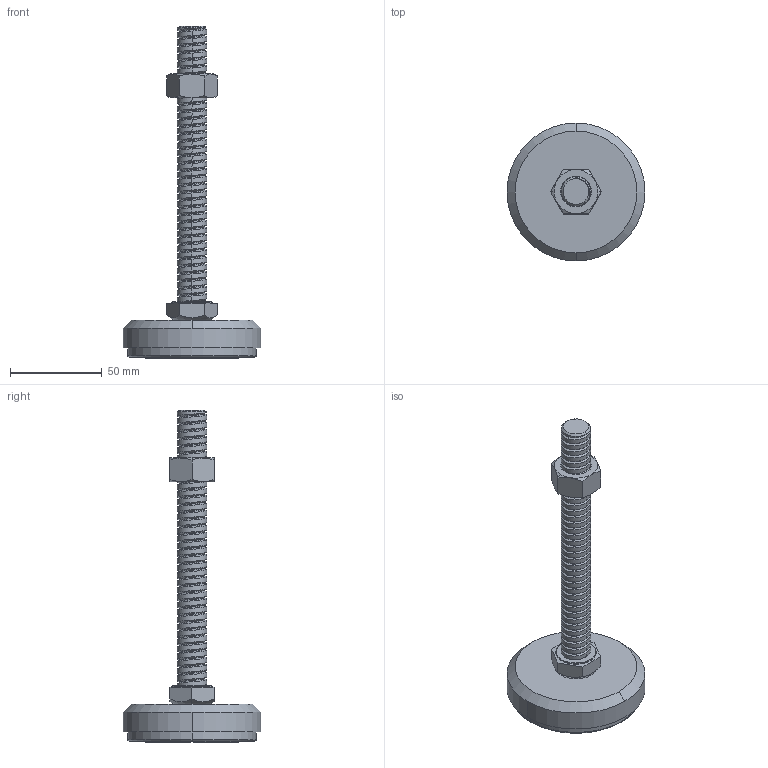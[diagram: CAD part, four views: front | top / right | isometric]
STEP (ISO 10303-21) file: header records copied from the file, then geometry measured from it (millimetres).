
FILE_DESCRIPTION (( 'STEP AP203' ), '1' );
FILE_NAME ('F-102-2-8016-150.STEP', '2015-11-24T02:00:49', ( '' ), ( '' ), 'SwSTEP 2.0', 'SolidWorks 2014', '' );
FILE_SCHEMA (( 'CONFIG_CONTROL_DESIGN' ));
Length unit declared in the file: millimetre
Products named in the file (5): 75橡膠墊; M16螺帽-5; DT-M16X150L-10調整螺絲; DK-08-75鐵蓋-M16; F-102-2-8016-150
Assembly tree (4 placements, depth 2):
  F-102-2-8016-150
    75橡膠墊
    M16螺帽-5
    DT-M16X150L-10調整螺絲
    DK-08-75鐵蓋-M16
Bounding box: 75 x 75 x 180.5 mm (x, y, z)
Volume: 115114.3 mm3; surface area: 38809.1 mm2
Topology: 4 solids, 4 shells, 208 faces, 516 edges, 328 vertices
Faces by surface type: cylinder 101, cone 47, plane 33, bspline 25, torus 2
Entity records: 16520 total; most frequent: CARTESIAN_POINT 11742, ORIENTED_EDGE 1032, DIRECTION 770, EDGE_CURVE 516, VERTEX_POINT 328, AXIS2_PLACEMENT_3D 305, EDGE_LOOP 224, FACE_OUTER_BOUND 208
